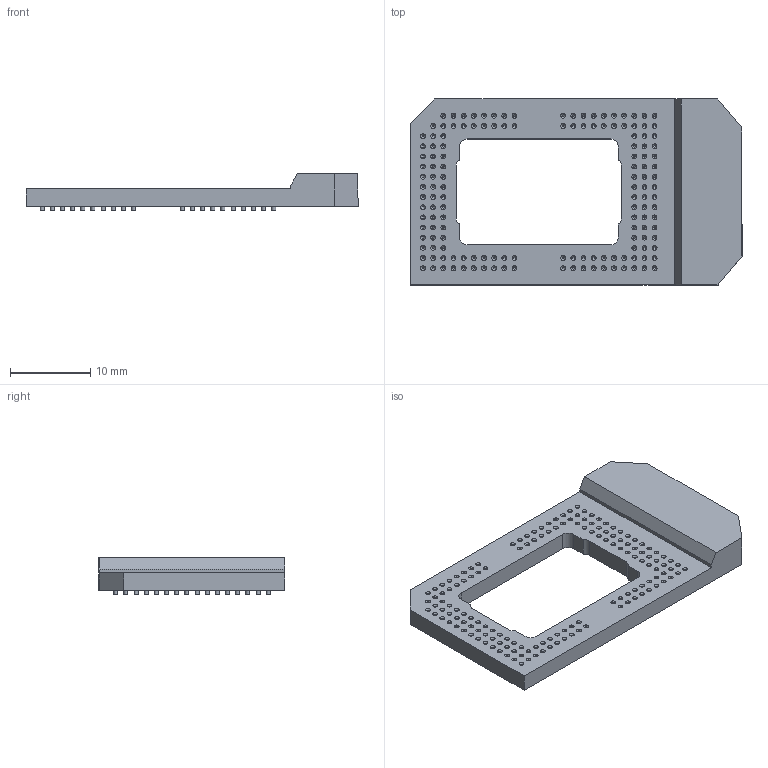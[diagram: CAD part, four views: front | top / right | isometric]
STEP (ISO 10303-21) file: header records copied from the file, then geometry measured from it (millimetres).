
FILE_DESCRIPTION((''),'2;1');
FILE_NAME('C:\Work\Series450\3DCAD\2509474-sy-socket-450-Z-1325-149.stp','2008-03-24T17:57:54',('a0130832'),(''),'Autodesk Inventor 2008','Autodesk Inventor 2008','');
FILE_SCHEMA(('AUTOMOTIVE_DESIGN { 1 0 10303 214 1 1 1 1 }'));
Length unit declared in the file: millimetre
Products named in the file (1): 2509474-sy-socket-450-Z-1325-149
Bounding box: 41.5 x 23.25 x 4.6 mm (x, y, z)
Volume: 1834.2 mm3; surface area: 2127.8 mm2
Topology: 1 solids, 1 shells, 773 faces, 1717 edges, 1095 vertices
Faces by surface type: bspline 447, plane 169, cylinder 157
Full cylindrical faces by diameter (mm): 0.5 x149
Entity records: 21639 total; most frequent: CARTESIAN_POINT 9993, DIRECTION 2238, ORIENTED_EDGE 1646, EDGE_LOOP 1520, AXIS2_PLACEMENT_3D 1088, EDGE_CURVE 823, VERTEX_POINT 797, FACE_OUTER_BOUND 773
